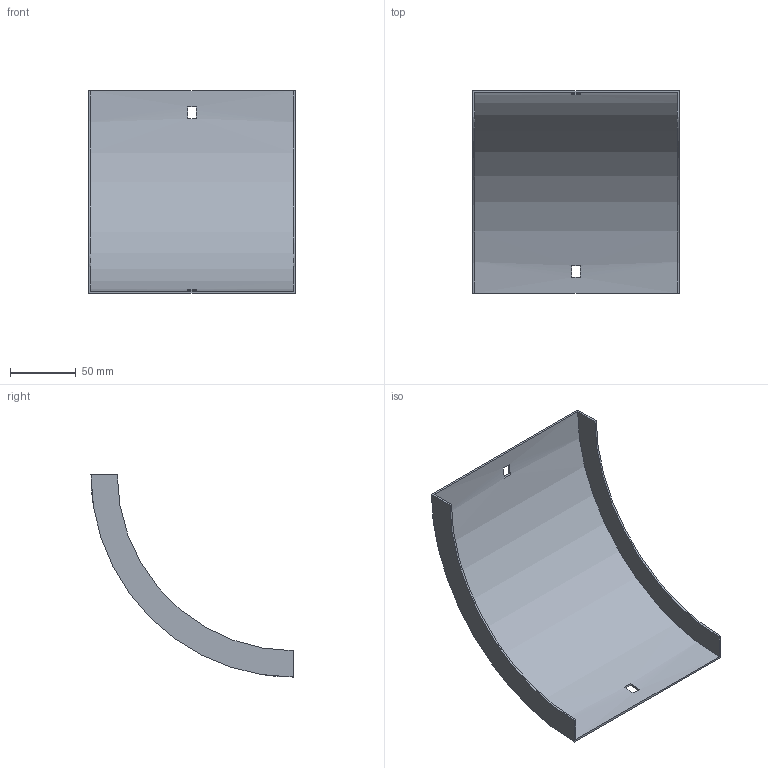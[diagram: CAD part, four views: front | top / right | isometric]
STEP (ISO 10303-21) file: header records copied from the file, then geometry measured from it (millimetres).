
FILE_DESCRIPTION (( 'STEP AP214' ), '1' );
FILE_NAME ('33N1B150.step', '2025-02-21T09:17:59', ( '' ), ( '' ), 'SwSTEP 2.0', 'SolidWorks 2023', '' );
FILE_SCHEMA (( 'AUTOMOTIVE_DESIGN' ));
Length unit declared in the file: millimetre
Products named in the file (1): 33N1B150
Bounding box: 157 x 153.5 x 153.5 mm (x, y, z)
Volume: 68773.9 mm3; surface area: 93006.8 mm2
Topology: 1 solids, 1 shells, 18 faces, 48 edges, 32 vertices
Faces by surface type: plane 14, cylinder 4
Entity records: 599 total; most frequent: DIRECTION 102, CARTESIAN_POINT 99, ORIENTED_EDGE 96, EDGE_CURVE 48, AXIS2_PLACEMENT_3D 35, VERTEX_POINT 32, LINE 32, VECTOR 32
